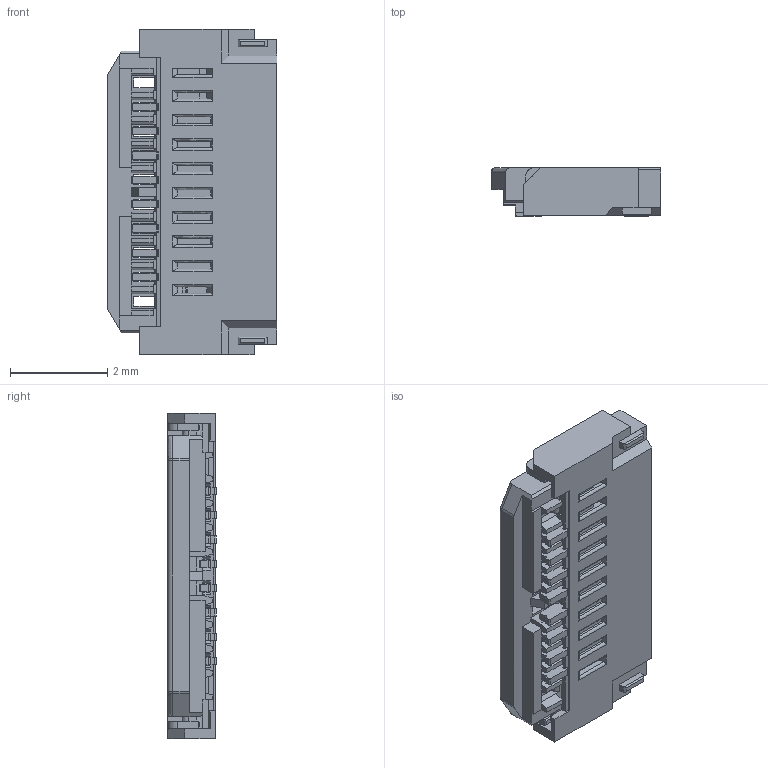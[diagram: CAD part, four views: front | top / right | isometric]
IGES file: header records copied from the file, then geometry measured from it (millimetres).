
Start section: SolidWorks IGES file using analytic representation for surfaces
Global section: file name: \\3D-CAD-10-2\3dwork\fukumoto\6P DW Connector\試作　改訂130110\130430_第二回改造DR形状\3Dまとめ\20597-RECE. ASS'Y 6P ACT CLOSE.IGS; native system: SolidWorks 2012; preprocessor: SolidWorks 2012; author: 3dcad; date: 150722.154132; units: millimetre
Bounding box: 3.5 x 1 x 6.7 mm (x, y, z)
Surface area: 85.7 mm2 (no closed solid volume)
Topology: 0 solids, 0 shells, 734 faces, 4849 edges, 4847 vertices
Faces by surface type: bspline 564, revolution 170
